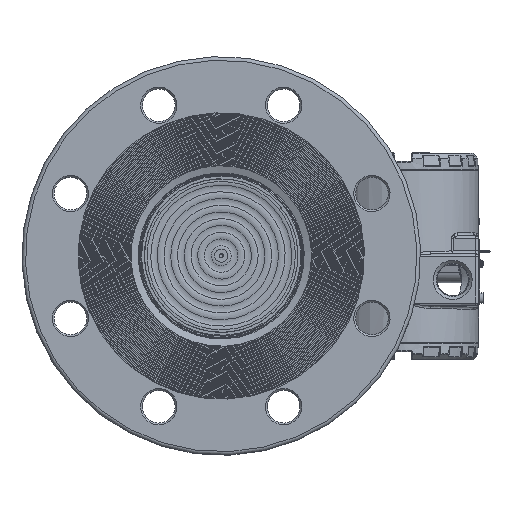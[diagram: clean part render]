
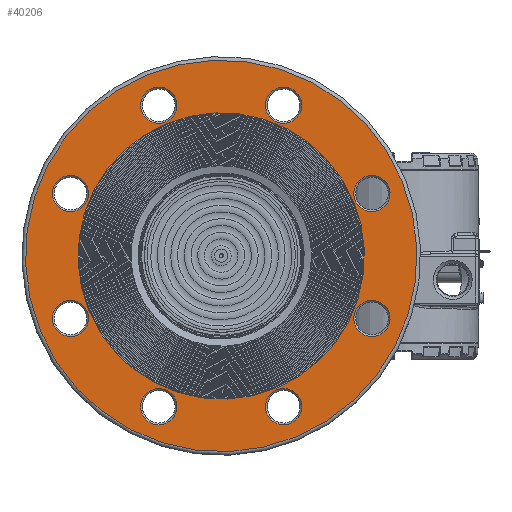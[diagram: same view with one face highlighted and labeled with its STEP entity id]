
A CAD part, top view. The second image highlights one B-rep face of the part: STEP entity #40206.
In plain terms, the highlighted planar face has unit normal (0, 0, 1).
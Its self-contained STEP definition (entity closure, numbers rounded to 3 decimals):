
#779=FACE_BOUND('',#6889,.T.);
#780=FACE_BOUND('',#6890,.T.);
#781=FACE_BOUND('',#6891,.T.);
#782=FACE_BOUND('',#6892,.T.);
#783=FACE_BOUND('',#6893,.T.);
#784=FACE_BOUND('',#6894,.T.);
#785=FACE_BOUND('',#6895,.T.);
#786=FACE_BOUND('',#6896,.T.);
#787=FACE_BOUND('',#6897,.T.);
#2860=PLANE('',#44732);
#4131=FACE_OUTER_BOUND('',#6888,.T.);
#6888=EDGE_LOOP('',(#30798));
#6889=EDGE_LOOP('',(#30799));
#6890=EDGE_LOOP('',(#30800));
#6891=EDGE_LOOP('',(#30801));
#6892=EDGE_LOOP('',(#30802));
#6893=EDGE_LOOP('',(#30803));
#6894=EDGE_LOOP('',(#30804));
#6895=EDGE_LOOP('',(#30805));
#6896=EDGE_LOOP('',(#30806));
#6897=EDGE_LOOP('',(#30807));
#12940=CIRCLE('',#44731,108.);
#12941=CIRCLE('',#44733,10.);
#12942=CIRCLE('',#44734,10.);
#12943=CIRCLE('',#44735,10.);
#12944=CIRCLE('',#44736,10.);
#12945=CIRCLE('',#44737,79.);
#12946=CIRCLE('',#44738,10.);
#12947=CIRCLE('',#44739,10.);
#12948=CIRCLE('',#44740,10.);
#12949=CIRCLE('',#44741,10.);
#17619=VERTEX_POINT('',#71758);
#17620=VERTEX_POINT('',#71762);
#17621=VERTEX_POINT('',#71764);
#17622=VERTEX_POINT('',#71766);
#17623=VERTEX_POINT('',#71768);
#17624=VERTEX_POINT('',#71770);
#17625=VERTEX_POINT('',#71772);
#17626=VERTEX_POINT('',#71774);
#17627=VERTEX_POINT('',#71776);
#17628=VERTEX_POINT('',#71778);
#22266=EDGE_CURVE('',#17619,#17619,#12940,.T.);
#22267=EDGE_CURVE('',#17620,#17620,#12941,.T.);
#22268=EDGE_CURVE('',#17621,#17621,#12942,.T.);
#22269=EDGE_CURVE('',#17622,#17622,#12943,.T.);
#22270=EDGE_CURVE('',#17623,#17623,#12944,.T.);
#22271=EDGE_CURVE('',#17624,#17624,#12945,.T.);
#22272=EDGE_CURVE('',#17625,#17625,#12946,.T.);
#22273=EDGE_CURVE('',#17626,#17626,#12947,.T.);
#22274=EDGE_CURVE('',#17627,#17627,#12948,.T.);
#22275=EDGE_CURVE('',#17628,#17628,#12949,.T.);
#30798=ORIENTED_EDGE('',*,*,#22266,.F.);
#30799=ORIENTED_EDGE('',*,*,#22267,.F.);
#30800=ORIENTED_EDGE('',*,*,#22268,.F.);
#30801=ORIENTED_EDGE('',*,*,#22269,.F.);
#30802=ORIENTED_EDGE('',*,*,#22270,.F.);
#30803=ORIENTED_EDGE('',*,*,#22271,.F.);
#30804=ORIENTED_EDGE('',*,*,#22272,.F.);
#30805=ORIENTED_EDGE('',*,*,#22273,.F.);
#30806=ORIENTED_EDGE('',*,*,#22274,.F.);
#30807=ORIENTED_EDGE('',*,*,#22275,.F.);
#40206=ADVANCED_FACE('',(#4131,#779,#780,#781,#782,#783,#784,#785,#786,
#787),#2860,.T.);
#44731=AXIS2_PLACEMENT_3D('',#71760,#53084,#53085);
#44732=AXIS2_PLACEMENT_3D('',#71761,#53086,#53087);
#44733=AXIS2_PLACEMENT_3D('',#71763,#53088,#53089);
#44734=AXIS2_PLACEMENT_3D('',#71765,#53090,#53091);
#44735=AXIS2_PLACEMENT_3D('',#71767,#53092,#53093);
#44736=AXIS2_PLACEMENT_3D('',#71769,#53094,#53095);
#44737=AXIS2_PLACEMENT_3D('',#71771,#53096,#53097);
#44738=AXIS2_PLACEMENT_3D('',#71773,#53098,#53099);
#44739=AXIS2_PLACEMENT_3D('',#71775,#53100,#53101);
#44740=AXIS2_PLACEMENT_3D('',#71777,#53102,#53103);
#44741=AXIS2_PLACEMENT_3D('',#71779,#53104,#53105);
#53084=DIRECTION('center_axis',(0.,0.,-1.));
#53085=DIRECTION('ref_axis',(-1.,0.,0.));
#53086=DIRECTION('center_axis',(0.,0.,1.));
#53087=DIRECTION('ref_axis',(1.,0.,0.));
#53088=DIRECTION('center_axis',(0.,0.,1.));
#53089=DIRECTION('ref_axis',(-0.707,0.707,0.));
#53090=DIRECTION('center_axis',(0.,0.,1.));
#53091=DIRECTION('ref_axis',(0.707,0.707,0.));
#53092=DIRECTION('center_axis',(0.,0.,1.));
#53093=DIRECTION('ref_axis',(-0.707,-0.707,0.));
#53094=DIRECTION('center_axis',(0.,0.,1.));
#53095=DIRECTION('ref_axis',(0.,-1.,0.));
#53096=DIRECTION('center_axis',(0.,0.,1.));
#53097=DIRECTION('ref_axis',(-1.,0.,0.));
#53098=DIRECTION('center_axis',(0.,0.,1.));
#53099=DIRECTION('ref_axis',(0.707,-0.707,0.));
#53100=DIRECTION('center_axis',(0.,0.,1.));
#53101=DIRECTION('ref_axis',(-1.,0.,0.));
#53102=DIRECTION('center_axis',(0.,0.,1.));
#53103=DIRECTION('ref_axis',(1.,0.,0.));
#53104=DIRECTION('center_axis',(0.,0.,1.));
#53105=DIRECTION('ref_axis',(0.,1.,0.));
#71758=CARTESIAN_POINT('',(108.,0.,17.));
#71760=CARTESIAN_POINT('Origin',(0.,0.,17.));
#71761=CARTESIAN_POINT('Origin',(0.,0.,
17.));
#71762=CARTESIAN_POINT('',(70.711,56.569,17.));
#71763=CARTESIAN_POINT('Origin',(63.64,63.64,17.));
#71764=CARTESIAN_POINT('',(56.569,-70.711,17.));
#71765=CARTESIAN_POINT('Origin',(63.64,-63.64,17.));
#71766=CARTESIAN_POINT('',(-56.569,70.711,17.));
#71767=CARTESIAN_POINT('Origin',(-63.64,63.64,17.));
#71768=CARTESIAN_POINT('',(-90.,10.,17.));
#71769=CARTESIAN_POINT('Origin',(-90.,0.,17.));
#71770=CARTESIAN_POINT('',(79.,0.,17.));
#71771=CARTESIAN_POINT('Origin',(0.,0.,17.));
#71772=CARTESIAN_POINT('',(-70.711,-56.569,17.));
#71773=CARTESIAN_POINT('Origin',(-63.64,-63.64,17.));
#71774=CARTESIAN_POINT('',(10.,90.,17.));
#71775=CARTESIAN_POINT('Origin',(0.,90.,17.));
#71776=CARTESIAN_POINT('',(-10.,-90.,17.));
#71777=CARTESIAN_POINT('Origin',(0.,-90.,17.));
#71778=CARTESIAN_POINT('',(90.,-10.,17.));
#71779=CARTESIAN_POINT('Origin',(90.,0.,17.));
